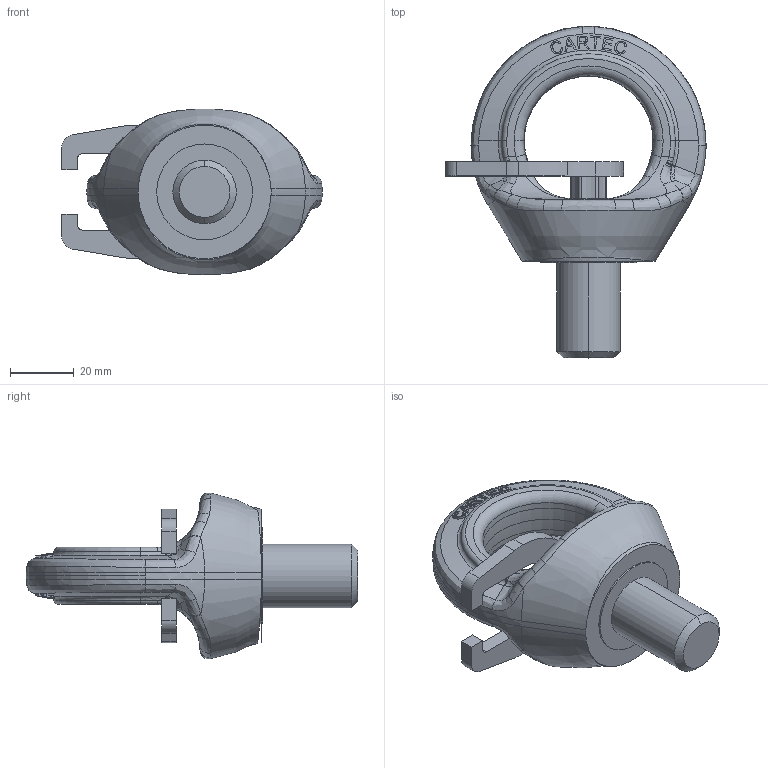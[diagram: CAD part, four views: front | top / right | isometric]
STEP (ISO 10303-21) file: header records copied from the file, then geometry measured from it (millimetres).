
FILE_DESCRIPTION(('STEP AP214'),'1');
FILE_NAME('c807ht20.stp','2017-03-27T13:28:42',('TraceParts'),('TraceParts S.A.'),'Spatial InterOp 3D',' ',' ');
FILE_SCHEMA(('automotive_design'));
Length unit declared in the file: millimetre
Products named in the file (3): c807ht20_1; c807ht20_2; c807ht20_3
Bounding box: 82.06 x 104.56 x 52.27 mm (x, y, z)
Volume: 85108.4 mm3; surface area: 25146 mm2
Topology: 3 solids, 3 shells, 425 faces, 1113 edges, 696 vertices
Faces by surface type: bspline 177, plane 131, cylinder 65, torus 34, cone 18
Entity records: 38595 total; most frequent: CARTESIAN_POINT 25789, ORIENTED_EDGE 2194, DIRECTION 1606, EDGE_CURVE 1097, VERTEX_POINT 696, AXIS2_PLACEMENT_3D 610, EDGE_LOOP 447, STYLED_ITEM 428
